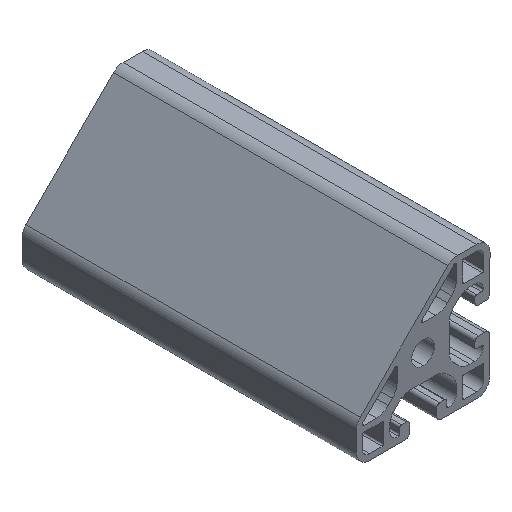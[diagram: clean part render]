
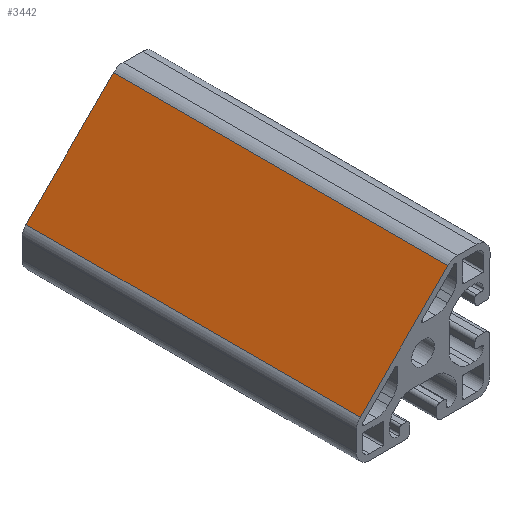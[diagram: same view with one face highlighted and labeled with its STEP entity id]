
A CAD part, isometric view. The second image highlights one B-rep face of the part: STEP entity #3442.
In plain terms, the highlighted planar face has unit normal (-0.707, 0, 0.707).
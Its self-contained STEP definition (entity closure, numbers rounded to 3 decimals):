
#13 = VECTOR ( 'NONE', #1862, 1000. ) ;
#180 = VECTOR ( 'NONE', #1706, 1000. ) ;
#353 = VERTEX_POINT ( 'NONE', #1029 ) ;
#428 = CARTESIAN_POINT ( 'NONE',  ( 7.398, 50., 18.828 ) ) ;
#516 = CARTESIAN_POINT ( 'NONE',  ( -18.828, 50., -7.398 ) ) ;
#614 = CARTESIAN_POINT ( 'NONE',  ( -18.828, -50., -7.398 ) ) ;
#627 = LINE ( 'NONE', #614, #1492 ) ;
#680 = ORIENTED_EDGE ( 'NONE', *, *, #2740, .F. ) ;
#714 = VERTEX_POINT ( 'NONE', #428 ) ;
#731 = LINE ( 'NONE', #1249, #13 ) ;
#977 = EDGE_CURVE ( 'NONE', #2060, #3656, #1169, .T. ) ;
#1016 = VECTOR ( 'NONE', #3343, 1000. ) ;
#1029 = CARTESIAN_POINT ( 'NONE',  ( 7.398, -50., 18.828 ) ) ;
#1169 = LINE ( 'NONE', #3196, #180 ) ;
#1231 = CARTESIAN_POINT ( 'NONE',  ( -18.828, -50., -7.398 ) ) ;
#1249 = CARTESIAN_POINT ( 'NONE',  ( 7.398, 50., 18.828 ) ) ;
#1458 = CARTESIAN_POINT ( 'NONE',  ( -18.828, 50., -7.398 ) ) ;
#1492 = VECTOR ( 'NONE', #1795, 1000. ) ;
#1536 = FACE_OUTER_BOUND ( 'NONE', #1674, .T. ) ;
#1674 = EDGE_LOOP ( 'NONE', ( #2468, #680, #2579, #1861 ) ) ;
#1706 = DIRECTION ( 'NONE',  ( 0., -1., 0. ) ) ;
#1795 = DIRECTION ( 'NONE',  ( 0.707, 0., 0.707 ) ) ;
#1861 = ORIENTED_EDGE ( 'NONE', *, *, #977, .T. ) ;
#1862 = DIRECTION ( 'NONE',  ( 0., -1., 0. ) ) ;
#2060 = VERTEX_POINT ( 'NONE', #1458 ) ;
#2098 = EDGE_CURVE ( 'NONE', #3656, #353, #627, .T. ) ;
#2369 = AXIS2_PLACEMENT_3D ( 'NONE', #516, #3361, #3107 ) ;
#2443 = CARTESIAN_POINT ( 'NONE',  ( -18.828, 50., -7.398 ) ) ;
#2468 = ORIENTED_EDGE ( 'NONE', *, *, #2098, .T. ) ;
#2579 = ORIENTED_EDGE ( 'NONE', *, *, #3507, .F. ) ;
#2740 = EDGE_CURVE ( 'NONE', #714, #353, #731, .T. ) ;
#2991 = PLANE ( 'NONE',  #2369 ) ;
#3107 = DIRECTION ( 'NONE',  ( -0.707, 0., -0.707 ) ) ;
#3196 = CARTESIAN_POINT ( 'NONE',  ( -18.828, 50., -7.398 ) ) ;
#3303 = LINE ( 'NONE', #2443, #1016 ) ;
#3343 = DIRECTION ( 'NONE',  ( 0.707, 0., 0.707 ) ) ;
#3361 = DIRECTION ( 'NONE',  ( 0.707, 0., -0.707 ) ) ;
#3442 = ADVANCED_FACE ( 'NONE', ( #1536 ), #2991, .F. ) ;
#3507 = EDGE_CURVE ( 'NONE', #2060, #714, #3303, .T. ) ;
#3656 = VERTEX_POINT ( 'NONE', #1231 ) ;
